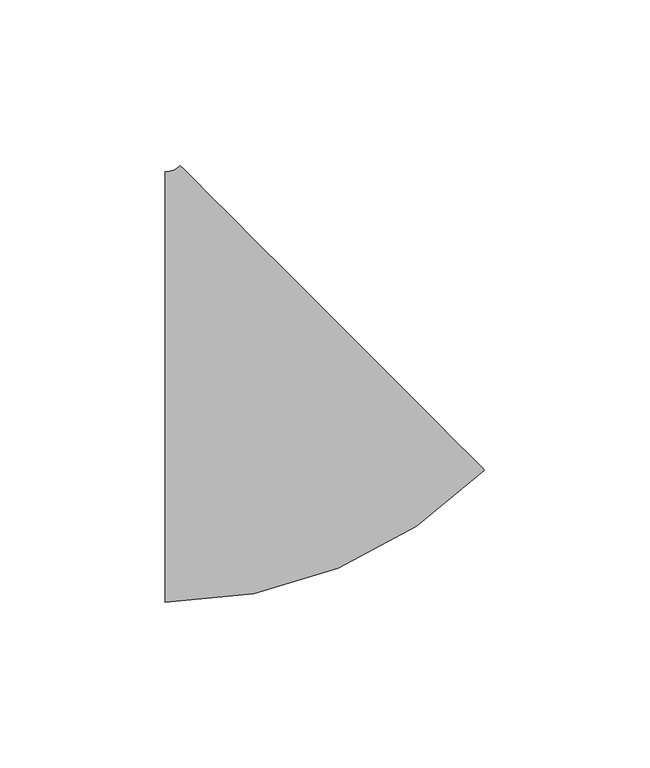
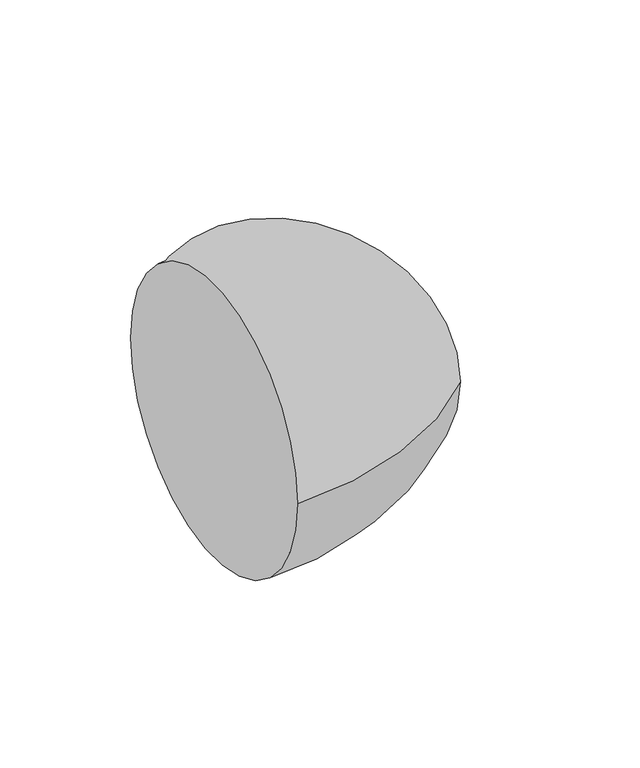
"""IFC4 building model written with IfcOpenShell, lengths in millimetres: pipe fitting geometry, M_Codo - Genérico : Estándar."""

from ifc_helpers import new_model, si_unit, point, frame, origin, place, context, project, spatial, circle_curve, ellipse_curve, trimmed, source, transform, mapped, element, save
from ifc_brep_helpers import plane_surface, revolved_surface, advanced_brep


def pipe_fitting_5d26bf8a(model_context):
    return source(origin(), model_context, "Body", "AdvancedBrep", [
        advanced_brep(
        [(-29.591336, -65.0875, 0.0), (-29.591336, 65.0875, 0.0), (66.9486195, -25.098051, 0.0), (-25.1011055, 66.9474744, 0.0)],
        [
            (0, 1, circle_curve(frame((-29.591336, 0.0, 0.0), z_axis=(-1.0, 0.0, 0.0), x_axis=(0.0, 1.0, 0.0)), 65.0875)),
            (1, 0, circle_curve(frame((-29.591336, 0.0, 0.0), z_axis=(-1.0, 0.0, 0.0), x_axis=(0.0, 1.0, 0.0)), 65.0875)),
            (2, 3, circle_curve(frame((20.923757, 20.9247117, 0.0), z_axis=(0.7070906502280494, 0.7071229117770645, 0.0), x_axis=(-0.7071229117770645, 0.7070906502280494, 0.0)), 65.0875)),
            (3, 2, circle_curve(frame((20.923757, 20.9247117, 0.0), z_axis=(0.7070906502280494, 0.7071229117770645, 0.0), x_axis=(-0.7071229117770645, 0.7070906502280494, 0.0)), 65.0875)),
            (3, 1, circle_curve(frame((-29.591336, 71.4375, 0.0), z_axis=(0.0, 0.0, -1.0), x_axis=(0.0, -1.0, 0.0)), 6.35)),
            (0, 2, circle_curve(frame((-29.591336, 71.4375, 0.0), z_axis=(0.0, 0.0, 1.0), x_axis=(0.0, -1.0, 0.0)), 136.525)),
        ],
        [
            plane_surface(frame((-29.591336, 0.0, 0.0), z_axis=(-1.0, 0.0, 0.0), x_axis=(0.0, 0.0, 1.0))),
            plane_surface(frame((20.923757, 20.9247117, 0.0), z_axis=(0.7070906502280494, 0.7071229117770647, 0.0), x_axis=(0.0, 0.0, 1.0))),
            revolved_surface(trimmed(ellipse_curve(frame((-29.591336, 0.0, 0.0), z_axis=(-1.0, 0.0, 0.0), x_axis=(0.0, 1.0, 0.0)), 65.0875, 65.0875), [point((-29.591336, -65.0875, 0.0))], [point((-29.591336, 65.0875, 0.0))], True, "CARTESIAN"), (-29.591336, 71.4375, 0.0), (0.0, 0.0, 1.0)),
            revolved_surface(trimmed(ellipse_curve(frame((-29.591336, 0.0, 0.0), z_axis=(-1.0, 0.0, 0.0), x_axis=(0.0, 1.0, 0.0)), 65.0875, 65.0875), [point((-29.591336, 65.0875, 0.0))], [point((-29.591336, -65.0875, 0.0))], True, "CARTESIAN"), (-29.591336, 71.4375, 0.0), (0.0, 0.0, 1.0)),
        ],
        [
            (0, [[1, 2]]),
            (1, [[3, 4]]),
            (2, [[5, -1, 6, -4]]),
            (3, [[-6, -2, -5, -3]]),
        ],
    ),
    ])


if __name__ == "__main__":
    model = new_model("IFC4")
    model_context = context("Model", 3, world=origin())
    ifc_project = project(units=[si_unit("LENGTHUNIT", "METRE", prefix="MILLI")], contexts=[model_context])
    site = spatial("IfcSite", under=ifc_project)
    building = spatial("IfcBuilding", under=site)
    placement = place(None, origin())
    pipe_fitting_shape = pipe_fitting_5d26bf8a(model_context)
    element("IfcPipeFitting", 1, ObjectType="M_Codo - Genérico : Estándar", at=placement, inside=building, context=model_context, shape_type="MappedRepresentation", body=[
        mapped(pipe_fitting_shape, transform((0.0, 0.0, 0.0), x_axis=(1.0, 0.0, 0.0), y_axis=(0.0, 1.0, 0.0), z_axis=(0.0, 0.0, 1.0))),
    ])
    save(model, "model.ifc")
